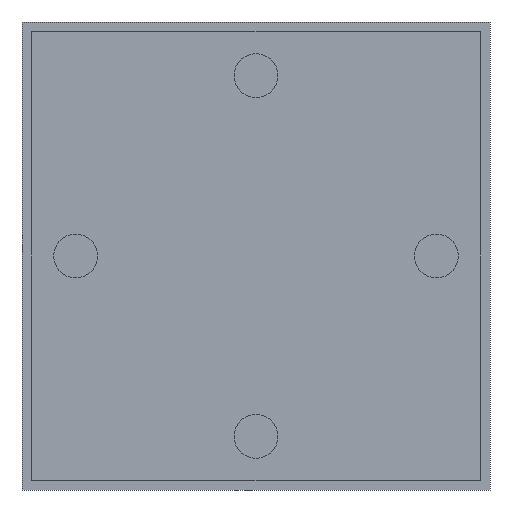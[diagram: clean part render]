
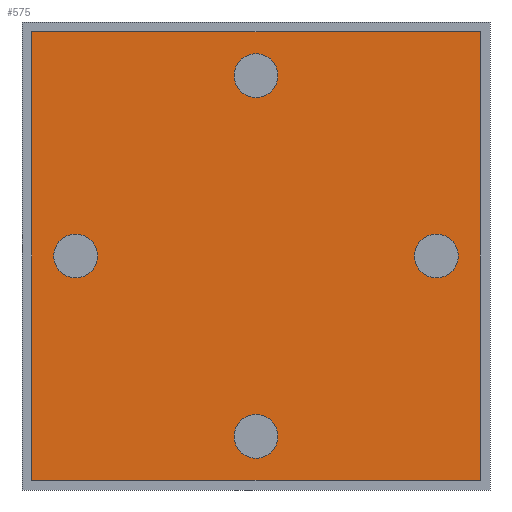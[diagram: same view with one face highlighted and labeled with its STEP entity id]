
A CAD part, front view. The second image highlights one B-rep face of the part: STEP entity #575.
In plain terms, the highlighted planar face has unit normal (0, -1, 0).
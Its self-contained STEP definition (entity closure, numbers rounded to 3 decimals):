
#137=DIRECTION('',(-1.,0.,0.));
#138=VECTOR('',#137,46.);
#139=CARTESIAN_POINT('',(23.,4.,-23.));
#140=LINE('',#139,#138);
#141=DIRECTION('',(0.,0.,1.));
#142=VECTOR('',#141,46.);
#143=CARTESIAN_POINT('',(-23.,4.,-23.));
#144=LINE('',#143,#142);
#145=DIRECTION('',(1.,0.,0.));
#146=VECTOR('',#145,46.);
#147=CARTESIAN_POINT('',(-23.,4.,23.));
#148=LINE('',#147,#146);
#149=DIRECTION('',(0.,0.,-1.));
#150=VECTOR('',#149,46.);
#151=CARTESIAN_POINT('',(23.,4.,23.));
#152=LINE('',#151,#150);
#153=CARTESIAN_POINT('',(-18.5,4.,0.));
#154=DIRECTION('',(0.,-1.,0.));
#155=DIRECTION('',(0.,0.,1.));
#156=AXIS2_PLACEMENT_3D('',#153,#154,#155);
#158=CARTESIAN_POINT('',(-18.5,4.,0.));
#159=DIRECTION('',(0.,-1.,0.));
#160=DIRECTION('',(0.,0.,-1.));
#161=AXIS2_PLACEMENT_3D('',#158,#159,#160);
#163=CARTESIAN_POINT('',(0.,4.,18.5));
#164=DIRECTION('',(0.,-1.,0.));
#165=DIRECTION('',(0.,0.,1.));
#166=AXIS2_PLACEMENT_3D('',#163,#164,#165);
#168=CARTESIAN_POINT('',(0.,4.,18.5));
#169=DIRECTION('',(0.,-1.,0.));
#170=DIRECTION('',(0.,0.,-1.));
#171=AXIS2_PLACEMENT_3D('',#168,#169,#170);
#173=CARTESIAN_POINT('',(18.5,4.,0.));
#174=DIRECTION('',(0.,-1.,0.));
#175=DIRECTION('',(0.,0.,1.));
#176=AXIS2_PLACEMENT_3D('',#173,#174,#175);
#178=CARTESIAN_POINT('',(18.5,4.,0.));
#179=DIRECTION('',(0.,-1.,0.));
#180=DIRECTION('',(0.,0.,-1.));
#181=AXIS2_PLACEMENT_3D('',#178,#179,#180);
#183=CARTESIAN_POINT('',(0.,4.,-18.5));
#184=DIRECTION('',(0.,-1.,0.));
#185=DIRECTION('',(0.,0.,1.));
#186=AXIS2_PLACEMENT_3D('',#183,#184,#185);
#188=CARTESIAN_POINT('',(0.,4.,-18.5));
#189=DIRECTION('',(0.,-1.,0.));
#190=DIRECTION('',(0.,0.,-1.));
#191=AXIS2_PLACEMENT_3D('',#188,#189,#190);
#294=CARTESIAN_POINT('',(-23.,4.,-23.));
#295=VERTEX_POINT('',#294);
#296=CARTESIAN_POINT('',(-23.,4.,23.));
#297=VERTEX_POINT('',#296);
#298=CARTESIAN_POINT('',(23.,4.,23.));
#299=VERTEX_POINT('',#298);
#300=CARTESIAN_POINT('',(23.,4.,-23.));
#301=VERTEX_POINT('',#300);
#302=CARTESIAN_POINT('',(-18.5,4.,2.25));
#303=CARTESIAN_POINT('',(-18.5,4.,-2.25));
#304=VERTEX_POINT('',#302);
#305=VERTEX_POINT('',#303);
#306=CARTESIAN_POINT('',(0.,4.,20.75));
#307=CARTESIAN_POINT('',(0.,4.,16.25));
#308=VERTEX_POINT('',#306);
#309=VERTEX_POINT('',#307);
#310=CARTESIAN_POINT('',(18.5,4.,2.25));
#311=CARTESIAN_POINT('',(18.5,4.,-2.25));
#312=VERTEX_POINT('',#310);
#313=VERTEX_POINT('',#311);
#314=CARTESIAN_POINT('',(0.,4.,-16.25));
#315=CARTESIAN_POINT('',(0.,4.,-20.75));
#316=VERTEX_POINT('',#314);
#317=VERTEX_POINT('',#315);
#540=CARTESIAN_POINT('',(0.,4.,0.));
#541=DIRECTION('',(0.,1.,0.));
#542=DIRECTION('',(0.,0.,1.));
#543=AXIS2_PLACEMENT_3D('',#540,#541,#542);
#544=PLANE('',#543);
#545=ORIENTED_EDGE('',*,*,#492,.T.);
#546=ORIENTED_EDGE('',*,*,#507,.T.);
#547=ORIENTED_EDGE('',*,*,#521,.T.);
#548=ORIENTED_EDGE('',*,*,#534,.T.);
#549=EDGE_LOOP('',(#545,#546,#547,#548));
#550=FACE_OUTER_BOUND('',#549,.F.);
#552=ORIENTED_EDGE('',*,*,#551,.T.);
#554=ORIENTED_EDGE('',*,*,#553,.T.);
#555=EDGE_LOOP('',(#552,#554));
#556=FACE_BOUND('',#555,.F.);
#558=ORIENTED_EDGE('',*,*,#557,.T.);
#560=ORIENTED_EDGE('',*,*,#559,.T.);
#561=EDGE_LOOP('',(#558,#560));
#562=FACE_BOUND('',#561,.F.);
#564=ORIENTED_EDGE('',*,*,#563,.T.);
#566=ORIENTED_EDGE('',*,*,#565,.T.);
#567=EDGE_LOOP('',(#564,#566));
#568=FACE_BOUND('',#567,.F.);
#570=ORIENTED_EDGE('',*,*,#569,.T.);
#572=ORIENTED_EDGE('',*,*,#571,.T.);
#573=EDGE_LOOP('',(#570,#572));
#574=FACE_BOUND('',#573,.F.);
#157=CIRCLE('',#156,2.25);
#162=CIRCLE('',#161,2.25);
#167=CIRCLE('',#166,2.25);
#172=CIRCLE('',#171,2.25);
#177=CIRCLE('',#176,2.25);
#182=CIRCLE('',#181,2.25);
#187=CIRCLE('',#186,2.25);
#192=CIRCLE('',#191,2.25);
#492=EDGE_CURVE('',#301,#295,#140,.T.);
#507=EDGE_CURVE('',#295,#297,#144,.T.);
#521=EDGE_CURVE('',#297,#299,#148,.T.);
#534=EDGE_CURVE('',#299,#301,#152,.T.);
#551=EDGE_CURVE('',#304,#305,#157,.T.);
#553=EDGE_CURVE('',#305,#304,#162,.T.);
#557=EDGE_CURVE('',#308,#309,#167,.T.);
#559=EDGE_CURVE('',#309,#308,#172,.T.);
#563=EDGE_CURVE('',#312,#313,#177,.T.);
#565=EDGE_CURVE('',#313,#312,#182,.T.);
#569=EDGE_CURVE('',#316,#317,#187,.T.);
#571=EDGE_CURVE('',#317,#316,#192,.T.);
#575=ADVANCED_FACE('',(#550,#556,#562,#568,#574),#544,.F.);
